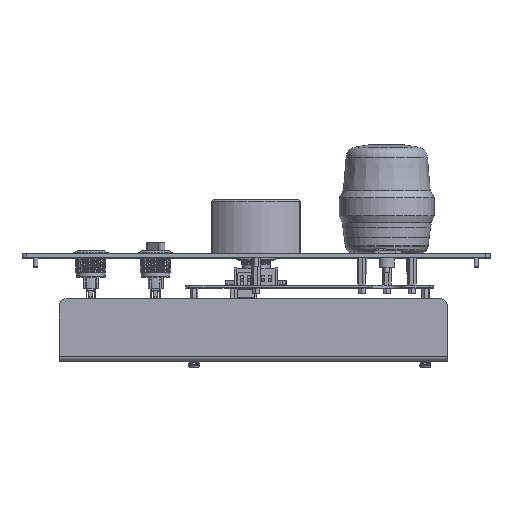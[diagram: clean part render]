
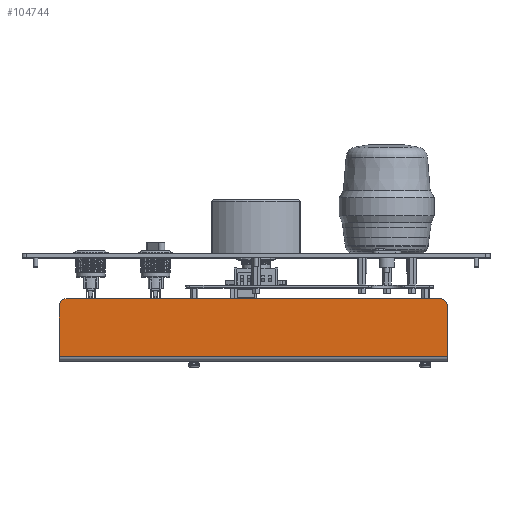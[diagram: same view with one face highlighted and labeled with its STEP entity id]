
A CAD part, top view. The second image highlights one B-rep face of the part: STEP entity #104744.
In plain terms, the highlighted planar face has unit normal (0, 0, 1).
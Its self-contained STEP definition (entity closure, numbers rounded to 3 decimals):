
#2397=PLANE('',#110404);
#9201=FACE_OUTER_BOUND('',#14786,.T.);
#14786=EDGE_LOOP('',(#68132,#68133,#68134,#68135,#68136,#68137));
#20913=CIRCLE('',#110405,0.197);
#20914=CIRCLE('',#110406,0.197);
#23368=LINE('',#144506,#32756);
#23375=LINE('',#144524,#32763);
#23377=LINE('',#144532,#32765);
#23378=LINE('',#144535,#32766);
#32756=VECTOR('',#116964,0.394);
#32763=VECTOR('',#116977,0.394);
#32765=VECTOR('',#116985,0.394);
#32766=VECTOR('',#116988,0.394);
#42319=VERTEX_POINT('',#144502);
#42321=VERTEX_POINT('',#144505);
#42329=VERTEX_POINT('',#144523);
#42331=VERTEX_POINT('',#144529);
#42332=VERTEX_POINT('',#144530);
#42333=VERTEX_POINT('',#144533);
#52628=EDGE_CURVE('',#42321,#42319,#23368,.T.);
#52637=EDGE_CURVE('',#42321,#42329,#23375,.T.);
#52640=EDGE_CURVE('',#42331,#42332,#20913,.T.);
#52641=EDGE_CURVE('',#42329,#42331,#23377,.T.);
#52642=EDGE_CURVE('',#42333,#42319,#20914,.T.);
#52643=EDGE_CURVE('',#42333,#42332,#23378,.T.);
#68132=ORIENTED_EDGE('',*,*,#52640,.F.);
#68133=ORIENTED_EDGE('',*,*,#52641,.F.);
#68134=ORIENTED_EDGE('',*,*,#52637,.F.);
#68135=ORIENTED_EDGE('',*,*,#52628,.T.);
#68136=ORIENTED_EDGE('',*,*,#52642,.F.);
#68137=ORIENTED_EDGE('',*,*,#52643,.T.);
#104744=ADVANCED_FACE('',(#9201),#2397,.T.);
#110404=AXIS2_PLACEMENT_3D('',#144528,#116981,#116982);
#110405=AXIS2_PLACEMENT_3D('',#144531,#116983,#116984);
#110406=AXIS2_PLACEMENT_3D('',#144534,#116986,#116987);
#116964=DIRECTION('',(0.,1.,0.));
#116977=DIRECTION('',(-1.,0.,0.));
#116981=DIRECTION('center_axis',(0.,0.,
1.));
#116982=DIRECTION('ref_axis',(0.,1.,0.));
#116983=DIRECTION('center_axis',(0.,0.,
-1.));
#116984=DIRECTION('ref_axis',(-0.707,0.707,0.));
#116985=DIRECTION('',(0.,1.,0.));
#116986=DIRECTION('center_axis',(0.,0.,
-1.));
#116987=DIRECTION('ref_axis',(0.707,0.707,0.));
#116988=DIRECTION('',(-1.,0.,0.));
#144502=CARTESIAN_POINT('',(-7.651,26.381,-3.271));
#144505=CARTESIAN_POINT('',(-7.651,24.924,-3.271));
#144506=CARTESIAN_POINT('',(-7.651,24.924,-3.271));
#144523=CARTESIAN_POINT('',(-18.753,24.924,-3.271));
#144524=CARTESIAN_POINT('',(-7.651,24.924,-3.271));
#144528=CARTESIAN_POINT('Origin',(-7.651,24.924,-3.271));
#144529=CARTESIAN_POINT('',(-18.753,26.381,-3.271));
#144530=CARTESIAN_POINT('',(-18.557,26.578,-3.271));
#144531=CARTESIAN_POINT('Origin',(-18.557,26.381,-3.271));
#144532=CARTESIAN_POINT('',(-18.753,24.924,-3.271));
#144533=CARTESIAN_POINT('',(-7.848,26.578,-3.271));
#144534=CARTESIAN_POINT('Origin',(-7.848,26.381,-3.271));
#144535=CARTESIAN_POINT('',(-7.651,26.578,-3.271));
